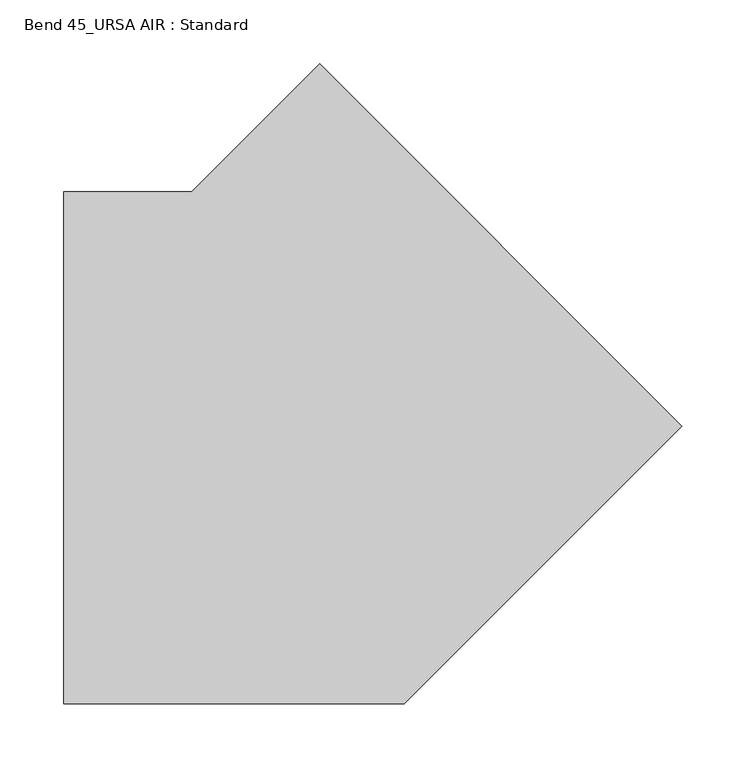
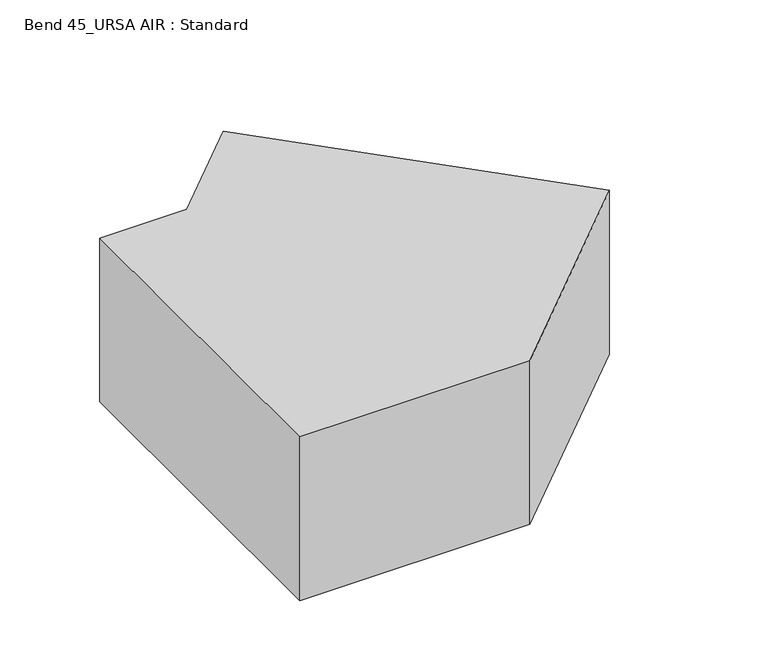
"""IFC4 building model written with IfcOpenShell, lengths in millimetres: duct fitting geometry, Bend 45_URSA AIR : Standard."""

from ifc_helpers import new_model, si_unit, frame, origin, place, context, project, spatial, polyline, outline, extrude, source, transform, mapped, element, save


def bend_45_ursa_air_standard_f05f9ebc(model_context):
    return source(origin(), model_context, "Body", "SweptSolid", [
        extrude(outline(polyline([(-182.8427125, -200.0), (-182.8427125, 200.0), (-82.8427125, 200.0), (17.1421864, 299.9848989), (299.9848989, 17.1421864), (82.8427125, -200.0), (-182.8427125, -200.0)])), frame((0.0, 0.0, -100.0), z_axis=(0.0, 0.0, 1.0), x_axis=(1.0, 0.0, 0.0)), (0.0, 0.0, 1.0), 200.0),
    ])


if __name__ == "__main__":
    model = new_model("IFC4")
    model_context = context("Model", 3, world=origin())
    ifc_project = project(units=[si_unit("LENGTHUNIT", "METRE", prefix="MILLI")], contexts=[model_context])
    site = spatial("IfcSite", under=ifc_project)
    building = spatial("IfcBuilding", under=site)
    placement = place(None, origin())
    bend_45_ursa_air_standard_shape = bend_45_ursa_air_standard_f05f9ebc(model_context)
    element("IfcDuctFitting", 1, ObjectType="Bend 45_URSA AIR : Standard", at=placement, inside=building, context=model_context, shape_type="MappedRepresentation", body=[
        mapped(bend_45_ursa_air_standard_shape, transform((0.0, 0.0, 0.0), x_axis=(1.0, 0.0, 0.0), y_axis=(0.0, 1.0, 0.0), z_axis=(0.0, 0.0, 1.0))),
    ])
    save(model, "model.ifc")
